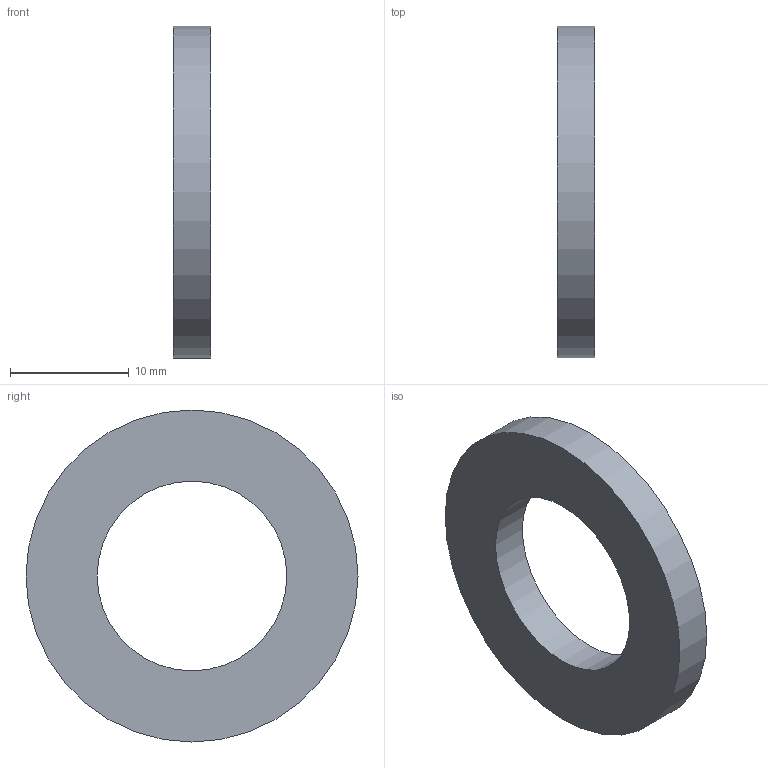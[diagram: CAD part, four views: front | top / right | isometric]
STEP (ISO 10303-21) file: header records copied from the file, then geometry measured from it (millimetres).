
FILE_DESCRIPTION(/* description */ ('평면 와셔'),/* implementation_level */ '2;1');
FILE_NAME(/* name */ '',/* time_stamp */ '2025-07-11T16:37:09+09:00',/* author */ ('jhkim'),/* organization */ (''),/* preprocessor_version */ 'ST-DEVELOPER v20.1',/* originating_system */ 'Autodesk Inventor 2026',/* authorisation */ '');
FILE_SCHEMA (('AUTOMOTIVE_DESIGN { 1 0 10303 214 3 1 1 }'));
Length unit declared in the file: millimetre
Products named in the file (1): 평 와셔 M14
Bounding box: 3.2 x 28 x 28 mm (x, y, z)
Volume: 1327 mm3; surface area: 1271.7 mm2
Topology: 1 solids, 1 shells, 4 faces, 6 edges, 4 vertices
Faces by surface type: cylinder 2, plane 2
Full cylindrical faces by diameter (mm): 16 x1, 28 x1
Entity records: 141 total; most frequent: DIRECTION 20, CARTESIAN_POINT 15, ORIENTED_EDGE 12, AXIS2_PLACEMENT_3D 9, EDGE_LOOP 6, EDGE_CURVE 6, FACE_OUTER_BOUND 4, CIRCLE 4
